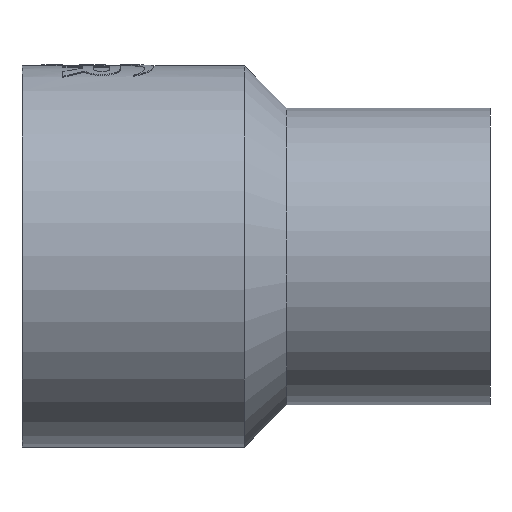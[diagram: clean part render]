
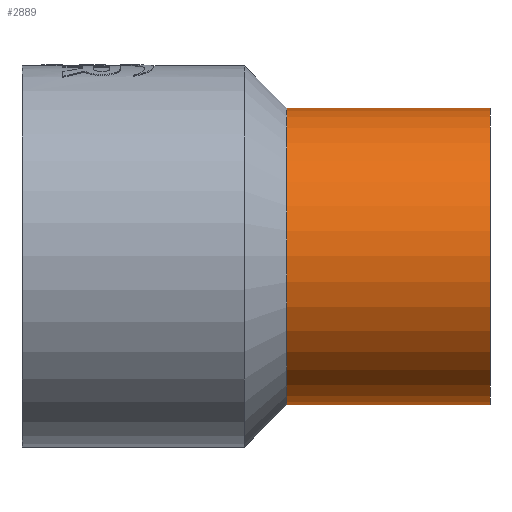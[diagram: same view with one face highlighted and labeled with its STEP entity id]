
A CAD part, front view. The second image highlights one B-rep face of the part: STEP entity #2889.
In plain terms, the highlighted cylindrical face has radius 70 mm (diameter 140 mm), a partial arc.
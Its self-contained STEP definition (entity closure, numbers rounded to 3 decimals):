
#34 = EDGE_CURVE ( 'NONE', #3318, #1845, #2011, .T. ) ;
#59 = AXIS2_PLACEMENT_3D ( 'NONE', #1958, #1939, #1934 ) ;
#269 = EDGE_CURVE ( 'NONE', #291, #1018, #2348, .T. ) ;
#291 = VERTEX_POINT ( 'NONE', #1218 ) ;
#292 = ORIENTED_EDGE ( 'NONE', *, *, #3322, .F. ) ;
#540 = VECTOR ( 'NONE', #558, 1000. ) ;
#558 = DIRECTION ( 'NONE',  ( -1., 0., 0. ) ) ;
#559 = LINE ( 'NONE', #666, #540 ) ;
#609 = DIRECTION ( 'NONE',  ( 0., 0., 1. ) ) ;
#648 = CARTESIAN_POINT ( 'NONE',  ( -0.3, 0., 0. ) ) ;
#666 = CARTESIAN_POINT ( 'NONE',  ( -0.3, 0., -70. ) ) ;
#690 = DIRECTION ( 'NONE',  ( -1., 0., 0. ) ) ;
#809 = CARTESIAN_POINT ( 'NONE',  ( 221., 0., -70. ) ) ;
#1018 = VERTEX_POINT ( 'NONE', #3454 ) ;
#1062 = DIRECTION ( 'NONE',  ( 0., 0., 1. ) ) ;
#1069 = DIRECTION ( 'NONE',  ( -1., 0., 0. ) ) ;
#1074 = CARTESIAN_POINT ( 'NONE',  ( 125., 0., 0. ) ) ;
#1218 = CARTESIAN_POINT ( 'NONE',  ( 125., 0., -70. ) ) ;
#1261 = CYLINDRICAL_SURFACE ( 'NONE', #1406, 70. ) ;
#1406 = AXIS2_PLACEMENT_3D ( 'NONE', #648, #690, #609 ) ;
#1662 = FACE_OUTER_BOUND ( 'NONE', #2238, .T. ) ;
#1801 = VECTOR ( 'NONE', #2019, 1000. ) ;
#1845 = VERTEX_POINT ( 'NONE', #2307 ) ;
#1934 = DIRECTION ( 'NONE',  ( 0., 0., 1. ) ) ;
#1939 = DIRECTION ( 'NONE',  ( -1., 0., 0. ) ) ;
#1958 = CARTESIAN_POINT ( 'NONE',  ( 221., 0., 0. ) ) ;
#2011 = CIRCLE ( 'NONE', #59, 70. ) ;
#2019 = DIRECTION ( 'NONE',  ( -1., 0., 0. ) ) ;
#2069 = CARTESIAN_POINT ( 'NONE',  ( -0.3, 0., 70. ) ) ;
#2074 = EDGE_CURVE ( 'NONE', #1845, #1018, #3264, .T. ) ;
#2238 = EDGE_LOOP ( 'NONE', ( #292, #2654, #2457, #2281 ) ) ;
#2281 = ORIENTED_EDGE ( 'NONE', *, *, #269, .F. ) ;
#2307 = CARTESIAN_POINT ( 'NONE',  ( 221., 0., 70. ) ) ;
#2348 = CIRCLE ( 'NONE', #2663, 70. ) ;
#2457 = ORIENTED_EDGE ( 'NONE', *, *, #2074, .T. ) ;
#2654 = ORIENTED_EDGE ( 'NONE', *, *, #34, .T. ) ;
#2663 = AXIS2_PLACEMENT_3D ( 'NONE', #1074, #1069, #1062 ) ;
#2889 = ADVANCED_FACE ( 'NONE', ( #1662 ), #1261, .T. ) ;
#3264 = LINE ( 'NONE', #2069, #1801 ) ;
#3318 = VERTEX_POINT ( 'NONE', #809 ) ;
#3322 = EDGE_CURVE ( 'NONE', #3318, #291, #559, .T. ) ;
#3454 = CARTESIAN_POINT ( 'NONE',  ( 125., 0., 70. ) ) ;
